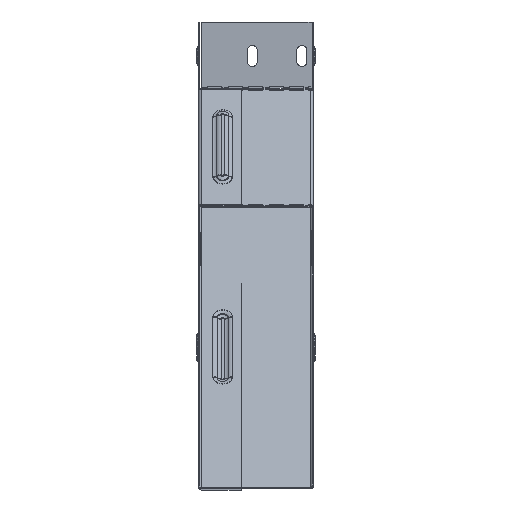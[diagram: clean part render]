
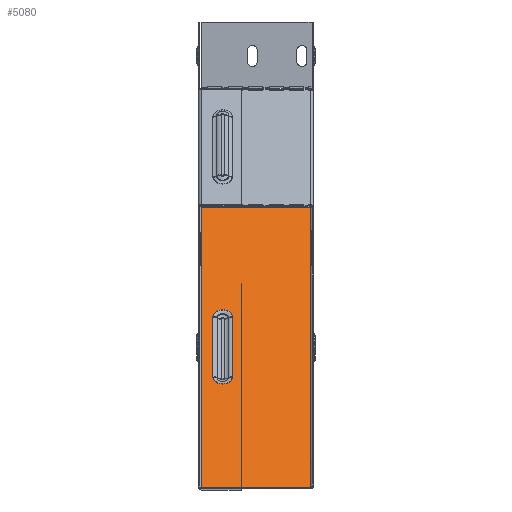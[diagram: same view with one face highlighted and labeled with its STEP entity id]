
A CAD part, left-side view. The second image highlights one B-rep face of the part: STEP entity #5080.
In plain terms, the highlighted planar face has unit normal (-0.707, 0, 0.707).
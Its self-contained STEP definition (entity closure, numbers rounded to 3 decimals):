
#485 = VERTEX_POINT ( 'NONE', #18746 ) ;
#514 = CARTESIAN_POINT ( 'NONE',  ( 43.221, 63.1, -85.648 ) ) ;
#624 = CARTESIAN_POINT ( 'NONE',  ( 64.434, 0., -64.434 ) ) ;
#654 = FACE_OUTER_BOUND ( 'NONE', #2283, .T. ) ;
#685 = DIRECTION ( 'NONE',  ( 0., 1., 0. ) ) ;
#708 = DIRECTION ( 'NONE',  ( 0., 1., 0. ) ) ;
#818 = VECTOR ( 'NONE', #3401, 1000. ) ;
#859 = ORIENTED_EDGE ( 'NONE', *, *, #9400, .F. ) ;
#1255 = CARTESIAN_POINT ( 'NONE',  ( 164.434, 78.2, 35.566 ) ) ;
#1797 = CARTESIAN_POINT ( 'NONE',  ( -35.255, 0., -164.123 ) ) ;
#2084 = LINE ( 'NONE', #9065, #12798 ) ;
#2283 = EDGE_LOOP ( 'NONE', ( #10539, #10679, #14885, #3546 ) ) ;
#3049 = CARTESIAN_POINT ( 'NONE',  ( 164.123, 1., 35.255 ) ) ;
#3378 = VERTEX_POINT ( 'NONE', #11940 ) ;
#3401 = DIRECTION ( 'NONE',  ( 0., 1., 0. ) ) ;
#3419 = LINE ( 'NONE', #16422, #8323 ) ;
#3427 = FACE_BOUND ( 'NONE', #10110, .T. ) ;
#3471 = DIRECTION ( 'NONE',  ( 0., 1., 0. ) ) ;
#3546 = ORIENTED_EDGE ( 'NONE', *, *, #16475, .F. ) ;
#3680 = CARTESIAN_POINT ( 'NONE',  ( 85.648, 63.1, -43.221 ) ) ;
#3889 = VERTEX_POINT ( 'NONE', #3049 ) ;
#4138 = LINE ( 'NONE', #5099, #12520 ) ;
#4441 = CARTESIAN_POINT ( 'NONE',  ( 164.123, 78.2, 35.255 ) ) ;
#4620 = EDGE_CURVE ( 'NONE', #13396, #485, #6465, .T. ) ;
#5008 = ORIENTED_EDGE ( 'NONE', *, *, #4620, .F. ) ;
#5080 = ADVANCED_FACE ( 'NONE', ( #3427, #654 ), #8069, .T. ) ;
#5099 = CARTESIAN_POINT ( 'NONE',  ( 164.123, 0., 35.255 ) ) ;
#5111 = EDGE_CURVE ( 'NONE', #3889, #16973, #4138, .T. ) ;
#6465 = CIRCLE ( 'NONE', #14071, 6.917 ) ;
#6562 = DIRECTION ( 'NONE',  ( -0.707, 0., 0.707 ) ) ;
#6726 = CIRCLE ( 'NONE', #7730, 6.917 ) ;
#7730 = AXIS2_PLACEMENT_3D ( 'NONE', #514, #9501, #3471 ) ;
#8069 = PLANE ( 'NONE',  #9660 ) ;
#8323 = VECTOR ( 'NONE', #10165, 1000. ) ;
#8412 = CARTESIAN_POINT ( 'NONE',  ( -35.255, 1., -164.123 ) ) ;
#9065 = CARTESIAN_POINT ( 'NONE',  ( 64.434, 56.183, -64.434 ) ) ;
#9252 = CARTESIAN_POINT ( 'NONE',  ( 43.221, 70.017, -85.648 ) ) ;
#9298 = VERTEX_POINT ( 'NONE', #8412 ) ;
#9370 = ORIENTED_EDGE ( 'NONE', *, *, #10243, .F. ) ;
#9400 = EDGE_CURVE ( 'NONE', #11102, #3378, #6726, .T. ) ;
#9501 = DIRECTION ( 'NONE',  ( -0.707, 0., 0.707 ) ) ;
#9532 = CARTESIAN_POINT ( 'NONE',  ( -35.255, 78.2, -164.123 ) ) ;
#9621 = LINE ( 'NONE', #1797, #818 ) ;
#9660 = AXIS2_PLACEMENT_3D ( 'NONE', #624, #6562, #12642 ) ;
#10010 = DIRECTION ( 'NONE',  ( -0.707, 0., -0.707 ) ) ;
#10110 = EDGE_LOOP ( 'NONE', ( #859, #9370, #5008, #12492 ) ) ;
#10165 = DIRECTION ( 'NONE',  ( -0.707, 0., -0.707 ) ) ;
#10243 = EDGE_CURVE ( 'NONE', #485, #11102, #3419, .T. ) ;
#10478 = VERTEX_POINT ( 'NONE', #9532 ) ;
#10539 = ORIENTED_EDGE ( 'NONE', *, *, #12535, .F. ) ;
#10545 = LINE ( 'NONE', #1255, #19163 ) ;
#10679 = ORIENTED_EDGE ( 'NONE', *, *, #5111, .T. ) ;
#10713 = EDGE_CURVE ( 'NONE', #3378, #13396, #2084, .T. ) ;
#11083 = LINE ( 'NONE', #14796, #12960 ) ;
#11102 = VERTEX_POINT ( 'NONE', #9252 ) ;
#11159 = DIRECTION ( 'NONE',  ( -0.707, 0., 0.707 ) ) ;
#11560 = DIRECTION ( 'NONE',  ( 0.707, 0., 0.707 ) ) ;
#11665 = DIRECTION ( 'NONE',  ( 0.707, 0., 0.707 ) ) ;
#11682 = CARTESIAN_POINT ( 'NONE',  ( 85.648, 56.183, -43.221 ) ) ;
#11940 = CARTESIAN_POINT ( 'NONE',  ( 43.221, 56.183, -85.648 ) ) ;
#12492 = ORIENTED_EDGE ( 'NONE', *, *, #10713, .F. ) ;
#12520 = VECTOR ( 'NONE', #685, 1000. ) ;
#12535 = EDGE_CURVE ( 'NONE', #3889, #9298, #11083, .T. ) ;
#12642 = DIRECTION ( 'NONE',  ( 0.707, 0., 0.707 ) ) ;
#12798 = VECTOR ( 'NONE', #11560, 1000. ) ;
#12960 = VECTOR ( 'NONE', #10010, 1000. ) ;
#13396 = VERTEX_POINT ( 'NONE', #11682 ) ;
#14071 = AXIS2_PLACEMENT_3D ( 'NONE', #3680, #11159, #708 ) ;
#14796 = CARTESIAN_POINT ( 'NONE',  ( 164.434, 1., 35.566 ) ) ;
#14885 = ORIENTED_EDGE ( 'NONE', *, *, #17969, .F. ) ;
#16422 = CARTESIAN_POINT ( 'NONE',  ( 64.434, 70.017, -64.434 ) ) ;
#16475 = EDGE_CURVE ( 'NONE', #9298, #10478, #9621, .T. ) ;
#16973 = VERTEX_POINT ( 'NONE', #4441 ) ;
#17969 = EDGE_CURVE ( 'NONE', #10478, #16973, #10545, .T. ) ;
#18746 = CARTESIAN_POINT ( 'NONE',  ( 85.648, 70.017, -43.221 ) ) ;
#19163 = VECTOR ( 'NONE', #11665, 1000. ) ;
